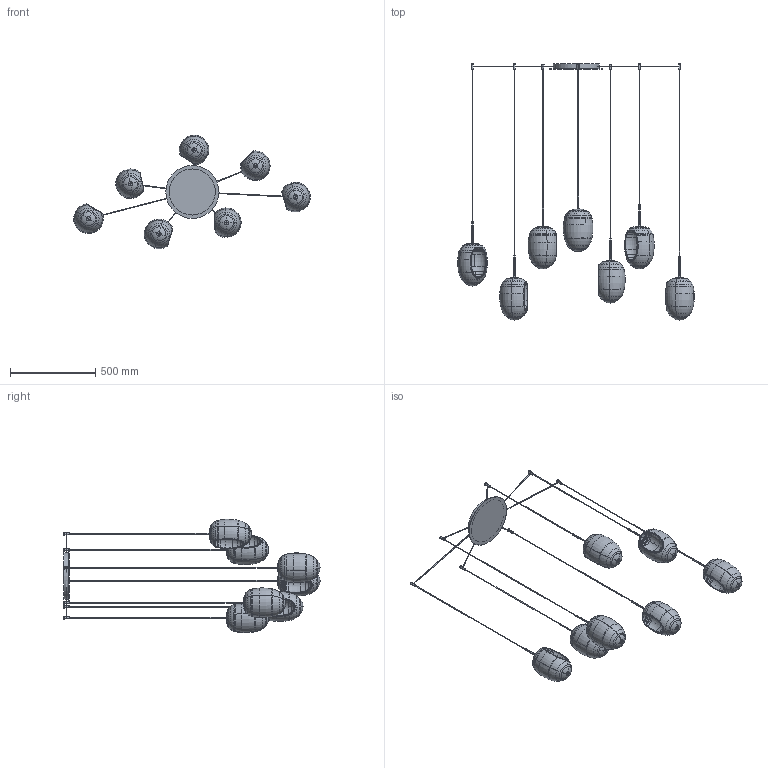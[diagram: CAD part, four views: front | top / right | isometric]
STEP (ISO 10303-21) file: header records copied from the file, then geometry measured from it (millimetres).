
FILE_DESCRIPTION (( 'STEP AP203' ), '1' );
FILE_NAME ('FOS07_7 sospensione.STEP', '2025-05-19T07:11:31', ( '' ), ( '' ), 'SwSTEP 2.0', 'SolidWorks 2022', '' );
FILE_SCHEMA (( 'CONFIG_CONTROL_DESIGN' ));
Length unit declared in the file: millimetre
Products named in the file (14): Cavo x Fos_H=1500; FOSxx-01-FOS_lampada completa con cavo_H=1600; FOSxx-01-FOS_rosone+cavi_FOS_7 sospensione<A macchina>; Cavo x Fos_H=1800; Cavo x Fos_H=1900; FOS parte in vetro; FOSxx-01-FOS_lampada completa con cavo_H=1700; FOSxx-01-FOS_lampada completa con cavo_H=1500; Porta lampada definitivo FOS; FOSxx-01-FOS_lampada completa con cavo_H=1900; FOS07_7 sospensione; Cavo x Fos_H=1600; Cavo x Fos_H=1700; FOSxx-01-FOS_lampada completa con cavo_H=1800
Assembly tree (23 placements, depth 3):
  FOS07_7 sospensione
    FOSxx-01-FOS_rosone+cavi_FOS_7 sospensione<A macchina>
    FOSxx-01-FOS_lampada completa con cavo_H=1900
      Porta lampada definitivo FOS
      FOS parte in vetro
      Cavo x Fos_H=1900
    FOSxx-01-FOS_lampada completa con cavo_H=1700
      Porta lampada definitivo FOS
      FOS parte in vetro
      Cavo x Fos_H=1700
    FOSxx-01-FOS_lampada completa con cavo_H=1800  x2
      Porta lampada definitivo FOS
      FOS parte in vetro
      Cavo x Fos_H=1800
    FOSxx-01-FOS_lampada completa con cavo_H=1600
      Porta lampada definitivo FOS
      FOS parte in vetro
      Cavo x Fos_H=1600
    FOSxx-01-FOS_lampada completa con cavo_H=1500  x2
      Porta lampada definitivo FOS
      FOS parte in vetro
      Cavo x Fos_H=1500
Bounding box: 1385.58 x 1500.54 x 665.2 mm (x, y, z)
Volume: 4611957.2 mm3; surface area: 2481010.4 mm2
Topology: 71 solids, 71 shells, 1618 faces, 3852 edges, 2384 vertices
Faces by surface type: torus 567, plane 422, cylinder 328, bspline 154, cone 147
Entity records: 17348 total; most frequent: CARTESIAN_POINT 8484, DIRECTION 1568, ORIENTED_EDGE 1440, EDGE_CURVE 720, AXIS2_PLACEMENT_3D 669, VERTEX_POINT 452, CIRCLE 340, EDGE_LOOP 336
